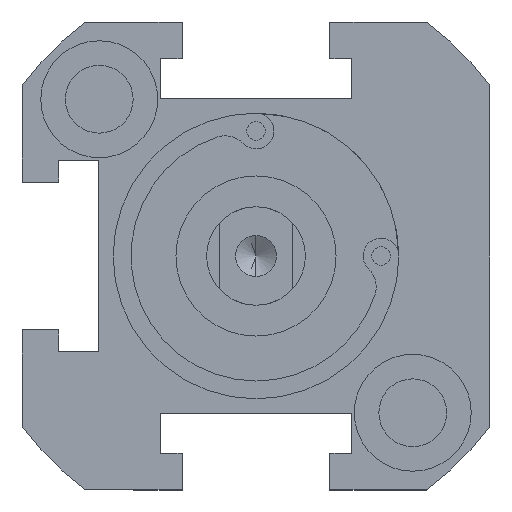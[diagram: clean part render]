
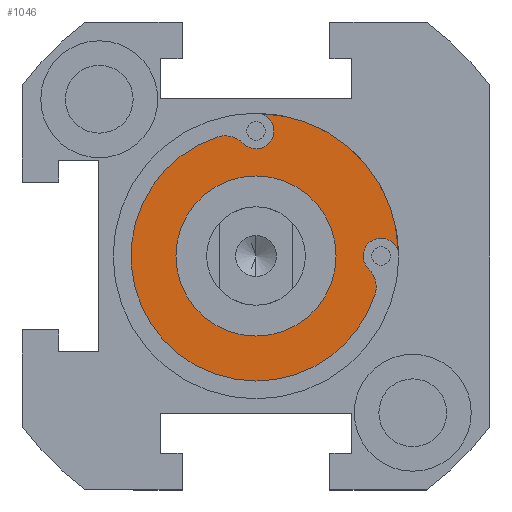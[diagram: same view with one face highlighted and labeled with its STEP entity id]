
A CAD part, front view. The second image highlights one B-rep face of the part: STEP entity #1046.
In plain terms, the highlighted planar face has unit normal (0, -1, 0) as drawn and (0, 1, 0) by its records, which use the part's own axes.
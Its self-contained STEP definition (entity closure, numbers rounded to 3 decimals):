
#22 = CIRCLE ( 'NONE', #1405, 6.5 ) ;
#66 = CARTESIAN_POINT ( 'NONE',  ( -3.099, -2., -9.665 ) ) ;
#115 = EDGE_LOOP ( 'NONE', ( #1838, #2652 ) ) ;
#244 = AXIS2_PLACEMENT_3D ( 'NONE', #1868, #2317, #977 ) ;
#255 = EDGE_CURVE ( 'NONE', #2425, #468, #724, .T. ) ;
#265 = CIRCLE ( 'NONE', #1149, 2. ) ;
#287 = ORIENTED_EDGE ( 'NONE', *, *, #1421, .F. ) ;
#307 = CIRCLE ( 'NONE', #2396, 6.5 ) ;
#318 = VERTEX_POINT ( 'NONE', #2757 ) ;
#349 = CARTESIAN_POINT ( 'NONE',  ( 0., -2., 10.15 ) ) ;
#352 = DIRECTION ( 'NONE',  ( 0., 0., 1. ) ) ;
#392 = FACE_BOUND ( 'NONE', #115, .T. ) ;
#406 = AXIS2_PLACEMENT_3D ( 'NONE', #1392, #2483, #464 ) ;
#420 = DIRECTION ( 'NONE',  ( 0., 1., 0. ) ) ;
#464 = DIRECTION ( 'NONE',  ( 0., 0., 1. ) ) ;
#468 = VERTEX_POINT ( 'NONE', #1464 ) ;
#489 = VERTEX_POINT ( 'NONE', #2333 ) ;
#493 = VERTEX_POINT ( 'NONE', #2196 ) ;
#498 = DIRECTION ( 'NONE',  ( 0., 1., 0. ) ) ;
#534 = EDGE_CURVE ( 'NONE', #468, #489, #265, .T. ) ;
#547 = CARTESIAN_POINT ( 'NONE',  ( 0., -2., -6.5 ) ) ;
#564 = ORIENTED_EDGE ( 'NONE', *, *, #2083, .F. ) ;
#589 = CARTESIAN_POINT ( 'NONE',  ( 0., -2., 0. ) ) ;
#592 = DIRECTION ( 'NONE',  ( 0., 0., 1. ) ) ;
#630 = ORIENTED_EDGE ( 'NONE', *, *, #255, .T. ) ;
#655 = EDGE_CURVE ( 'NONE', #2149, #2439, #22, .T. ) ;
#661 = CIRCLE ( 'NONE', #1791, 2. ) ;
#676 = VERTEX_POINT ( 'NONE', #2158 ) ;
#695 = CARTESIAN_POINT ( 'NONE',  ( -2.489, -2., -7.761 ) ) ;
#708 = DIRECTION ( 'NONE',  ( 0., 0., 1. ) ) ;
#724 = CIRCLE ( 'NONE', #2194, 10.15 ) ;
#731 = CARTESIAN_POINT ( 'NONE',  ( 0., -2., 0. ) ) ;
#761 = DIRECTION ( 'NONE',  ( 0., 0., 1. ) ) ;
#777 = DIRECTION ( 'NONE',  ( 0., 1., 0. ) ) ;
#823 = EDGE_LOOP ( 'NONE', ( #1737, #630, #2466, #564, #2506, #955, #287, #2743 ) ) ;
#892 = DIRECTION ( 'NONE',  ( 0., 0., 1. ) ) ;
#955 = ORIENTED_EDGE ( 'NONE', *, *, #1746, .F. ) ;
#977 = DIRECTION ( 'NONE',  ( 0., 0., 1. ) ) ;
#983 = CIRCLE ( 'NONE', #406, 11.6 ) ;
#1046 = ADVANCED_FACE ( 'NONE', ( #392, #1541 ), #2685, .T. ) ;
#1058 = DIRECTION ( 'NONE',  ( 0., 1., 0. ) ) ;
#1149 = AXIS2_PLACEMENT_3D ( 'NONE', #1440, #2545, #761 ) ;
#1167 = DIRECTION ( 'NONE',  ( 0., 0., 1. ) ) ;
#1288 = CARTESIAN_POINT ( 'NONE',  ( 0., -2., -10.15 ) ) ;
#1392 = CARTESIAN_POINT ( 'NONE',  ( 0., -2., 0. ) ) ;
#1405 = AXIS2_PLACEMENT_3D ( 'NONE', #2842, #1058, #1708 ) ;
#1421 = EDGE_CURVE ( 'NONE', #2431, #318, #2005, .T. ) ;
#1440 = CARTESIAN_POINT ( 'NONE',  ( 7.761, -2., 2.489 ) ) ;
#1459 = EDGE_CURVE ( 'NONE', #1697, #2425, #1756, .T. ) ;
#1464 = CARTESIAN_POINT ( 'NONE',  ( 9.665, -2., 3.099 ) ) ;
#1532 = EDGE_CURVE ( 'NONE', #676, #493, #983, .T. ) ;
#1541 = FACE_OUTER_BOUND ( 'NONE', #823, .T. ) ;
#1601 = DIRECTION ( 'NONE',  ( 0., 0., 1. ) ) ;
#1643 = CARTESIAN_POINT ( 'NONE',  ( 10.15, -2., 0. ) ) ;
#1670 = AXIS2_PLACEMENT_3D ( 'NONE', #1288, #1938, #592 ) ;
#1694 = DIRECTION ( 'NONE',  ( 0., 1., 0. ) ) ;
#1697 = VERTEX_POINT ( 'NONE', #66 ) ;
#1708 = DIRECTION ( 'NONE',  ( 0., 0., 1. ) ) ;
#1736 = DIRECTION ( 'NONE',  ( 0., 0., 1. ) ) ;
#1737 = ORIENTED_EDGE ( 'NONE', *, *, #1459, .T. ) ;
#1746 = EDGE_CURVE ( 'NONE', #318, #493, #2804, .T. ) ;
#1756 = CIRCLE ( 'NONE', #2726, 10.15 ) ;
#1791 = AXIS2_PLACEMENT_3D ( 'NONE', #695, #498, #708 ) ;
#1805 = CARTESIAN_POINT ( 'NONE',  ( 0., -2., 6.5 ) ) ;
#1822 = CIRCLE ( 'NONE', #1863, 1.45 ) ;
#1838 = ORIENTED_EDGE ( 'NONE', *, *, #655, .F. ) ;
#1863 = AXIS2_PLACEMENT_3D ( 'NONE', #1643, #777, #1736 ) ;
#1868 = CARTESIAN_POINT ( 'NONE',  ( 0., -2., -10.15 ) ) ;
#1938 = DIRECTION ( 'NONE',  ( 0., 1., 0. ) ) ;
#2005 = CIRCLE ( 'NONE', #1670, 1.45 ) ;
#2083 = EDGE_CURVE ( 'NONE', #676, #489, #1822, .T. ) ;
#2149 = VERTEX_POINT ( 'NONE', #1805 ) ;
#2158 = CARTESIAN_POINT ( 'NONE',  ( 11.6, -2., 0. ) ) ;
#2194 = AXIS2_PLACEMENT_3D ( 'NONE', #731, #2299, #1601 ) ;
#2196 = CARTESIAN_POINT ( 'NONE',  ( 0., -2., -11.6 ) ) ;
#2292 = DIRECTION ( 'NONE',  ( 0., 1., 0. ) ) ;
#2299 = DIRECTION ( 'NONE',  ( 0., 1., 0. ) ) ;
#2317 = DIRECTION ( 'NONE',  ( 0., 1., 0. ) ) ;
#2333 = CARTESIAN_POINT ( 'NONE',  ( 9.146, -2., 1.046 ) ) ;
#2396 = AXIS2_PLACEMENT_3D ( 'NONE', #589, #1694, #352 ) ;
#2425 = VERTEX_POINT ( 'NONE', #349 ) ;
#2431 = VERTEX_POINT ( 'NONE', #2825 ) ;
#2439 = VERTEX_POINT ( 'NONE', #547 ) ;
#2466 = ORIENTED_EDGE ( 'NONE', *, *, #534, .T. ) ;
#2483 = DIRECTION ( 'NONE',  ( 0., 1., 0. ) ) ;
#2506 = ORIENTED_EDGE ( 'NONE', *, *, #1532, .T. ) ;
#2515 = EDGE_CURVE ( 'NONE', #2439, #2149, #307, .T. ) ;
#2534 = AXIS2_PLACEMENT_3D ( 'NONE', #2692, #2292, #1167 ) ;
#2545 = DIRECTION ( 'NONE',  ( 0., 1., 0. ) ) ;
#2652 = ORIENTED_EDGE ( 'NONE', *, *, #2515, .F. ) ;
#2685 = PLANE ( 'NONE',  #2534 ) ;
#2692 = CARTESIAN_POINT ( 'NONE',  ( 0., -2., 0. ) ) ;
#2726 = AXIS2_PLACEMENT_3D ( 'NONE', #2881, #420, #892 ) ;
#2743 = ORIENTED_EDGE ( 'NONE', *, *, #2869, .T. ) ;
#2757 = CARTESIAN_POINT ( 'NONE',  ( 0., -2., -8.7 ) ) ;
#2804 = CIRCLE ( 'NONE', #244, 1.45 ) ;
#2825 = CARTESIAN_POINT ( 'NONE',  ( -1.046, -2., -9.146 ) ) ;
#2842 = CARTESIAN_POINT ( 'NONE',  ( 0., -2., 0. ) ) ;
#2869 = EDGE_CURVE ( 'NONE', #2431, #1697, #661, .T. ) ;
#2881 = CARTESIAN_POINT ( 'NONE',  ( 0., -2., 0. ) ) ;
